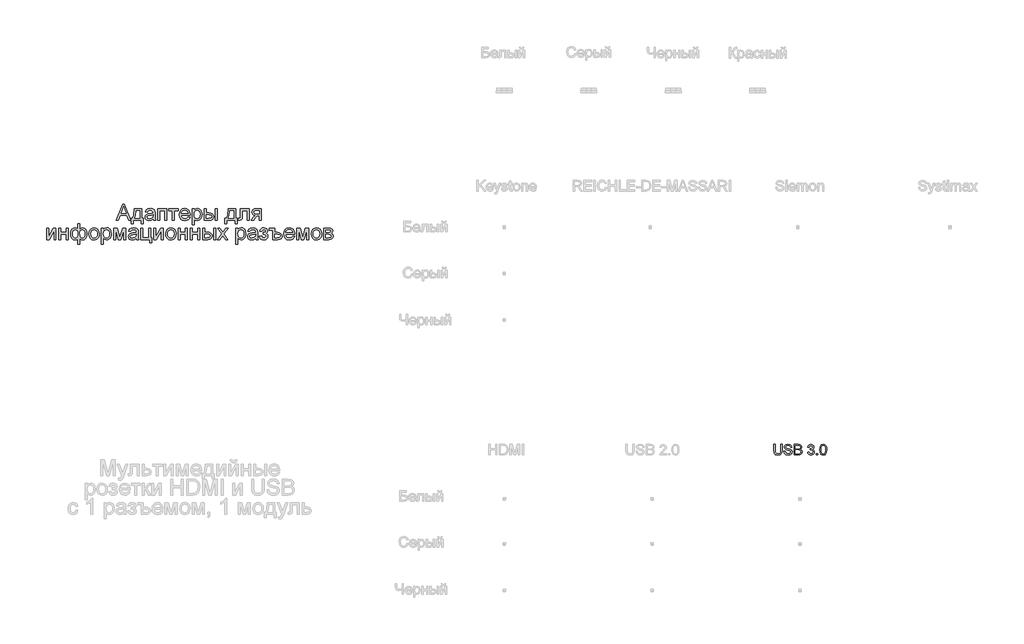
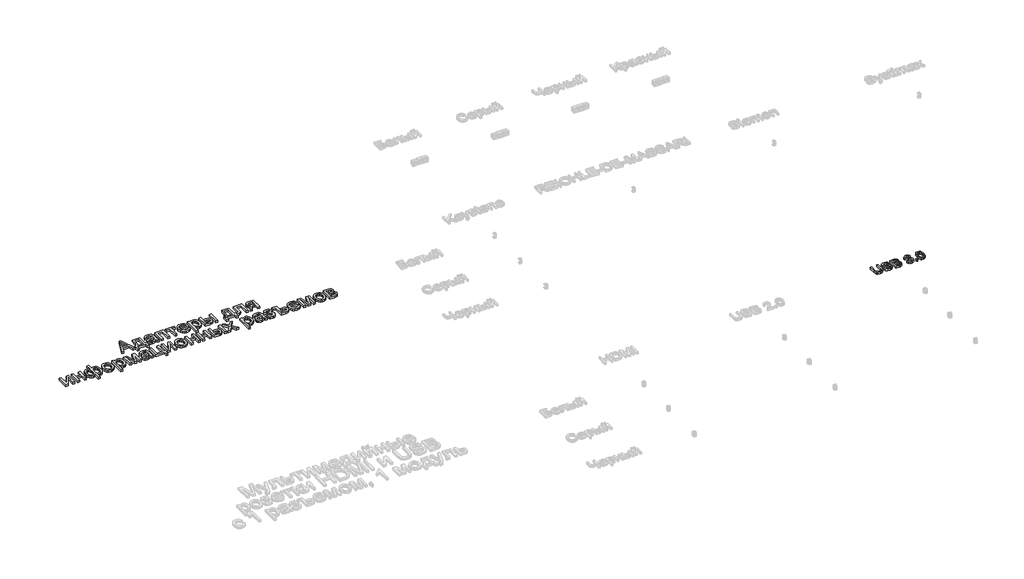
# One storey, part 11 of 15: 2 proxies.
"""IFC4 building model written with IfcOpenShell, lengths in millimetres."""

from ifc_helpers import new_model, si_unit, origin, origin_with_axes, place, context, project, spatial, polyline, outline, extrude, element, save

model = new_model("IFC4")

# Units and contexts
model_context = context("Model", 3, world=origin())
ifc_project = project(units=[si_unit("LENGTHUNIT", "METRE", prefix="MILLI")], contexts=[model_context])

# Site, building, storey
site = spatial("IfcSite", under=ifc_project)
building = spatial("IfcBuilding", under=site)
storey = spatial("IfcBuildingStorey", under=building, Name="Этаж 01", Elevation=0.0)

# Proxies
placement = place(None, origin())
element("IfcBuildingElementProxy", 1, Name="150 мм Arial", ObjectType="150 мм Arial", at=placement, inside=storey, context=model_context, shape_type="SweptSolid", body=[
    extrude(outline(polyline([(-2165.8082834, 1813.0882289), (-2105.6595772, 1963.7726941), (-2089.6199222, 1963.7726941), (-2029.471216, 1813.0882289), (-2049.373632, 1813.0882289), (-2066.6272975, 1860.1771243), (-2128.6889901, 1860.1771243), (-2145.9058675, 1813.0882289), (-2165.8082834, 1813.0882289)]), holes=[polyline([(-2121.7728086, 1879.0126824), (-2073.5066908, 1879.0126824), (-2087.0815365, 1916.0583994), (-2097.6397497, 1944.937136), (-2107.0207406, 1919.2957609), (-2121.7728086, 1879.0126824)])]), origin_with_axes(), (0.0, 0.0, 1.0), 20.0),
    extrude(outline(polyline([(-1995.2214023, 1923.7471331), (-1924.5880592, 1923.7471331), (-1924.5880592, 1831.9237871), (-1910.4613906, 1831.9237871), (-1910.4613906, 1782.4804469), (-1929.2969487, 1782.4804469), (-1929.2969487, 1813.0882289), (-2006.9936261, 1813.0882289), (-2006.9936261, 1782.4804469), (-2025.8291843, 1782.4804469), (-2025.8291843, 1831.9237871), (-2014.0569604, 1831.9237871), (-2005.4991055, 1847.3886264), (-1999.5072275, 1867.8474639), (-1995.2214023, 1923.7471331)]), holes=[polyline([(-1978.7402889, 1904.9115749), (-1983.1548728, 1861.9981402), (-1992.8669575, 1831.9237871), (-1943.4236173, 1831.9237871), (-1943.4236173, 1904.9115749), (-1978.7402889, 1904.9115749)])]), origin_with_axes(), (0.0, 0.0, 1.0), 20.0),
    extrude(outline(polyline([(-1818.6380446, 1827.2148975), (-1836.9033856, 1814.4493923), (-1857.0817131, 1810.7337841), (-1872.8224639, 1812.9686673), (-1884.4337394, 1819.6733166), (-1891.5936427, 1829.8544508), (-1893.9802772, 1842.5187885), (-1890.3750336, 1857.4180093), (-1880.9020723, 1868.23374), (-1867.7135027, 1874.4141575), (-1851.4163303, 1877.2468489), (-1818.7484092, 1883.721572), (-1818.6380446, 1887.9154267), (-1819.9348286, 1896.3215303), (-1823.8251807, 1901.8213661), (-1832.5255899, 1905.9048563), (-1844.6473016, 1907.2660197), (-1863.703589, 1903.642382), (-1872.7902743, 1890.7849063), (-1891.6258324, 1893.1393511), (-1883.4772462, 1911.5334508), (-1867.0697092, 1922.3123933), (-1842.2192805, 1926.1015778), (-1819.3922027, 1922.7538517), (-1806.4979387, 1914.3477481), (-1800.7221914, 1901.5638487), (-1799.8024864, 1885.0827354), (-1799.8024864, 1861.6486523), (-1798.8459932, 1828.9255488), (-1795.0935969, 1813.0882289), (-1813.929155, 1813.0882289), (-1818.6380446, 1827.2148975)]), holes=[polyline([(-1818.6380446, 1864.8860138), (-1849.0250974, 1859.1102665), (-1865.2302993, 1856.0568459), (-1872.5695451, 1851.090439), (-1875.144719, 1843.8431637), (-1869.5345186, 1833.6528324), (-1853.0717993, 1829.5693423), (-1834.015512, 1834.0758967), (-1821.7282533, 1844.9835979), (-1818.7484092, 1859.5517249), (-1818.6380446, 1864.8860138)])]), origin_with_axes(), (0.0, 0.0, 1.0), 20.0),
    extrude(outline(polyline([(-1773.903594, 1923.7471331), (-1689.1435823, 1923.7471331), (-1689.1435823, 1813.0882289), (-1707.9791404, 1813.0882289), (-1707.9791404, 1904.9115749), (-1755.0680358, 1904.9115749), (-1755.0680358, 1813.0882289), (-1773.903594, 1813.0882289), (-1773.903594, 1923.7471331)])), origin_with_axes(), (0.0, 0.0, 1.0), 20.0),
    extrude(outline(polyline([(-1670.3080241, 1923.7471331), (-1580.8391229, 1923.7471331), (-1580.8391229, 1904.9115749), (-1616.1557944, 1904.9115749), (-1616.1557944, 1813.0882289), (-1634.9913526, 1813.0882289), (-1634.9913526, 1904.9115749), (-1670.3080241, 1904.9115749), (-1670.3080241, 1923.7471331)])), origin_with_axes(), (0.0, 0.0, 1.0), 20.0),
    extrude(outline(polyline([(-1486.8820613, 1846.0504557), (-1468.4143852, 1843.6960109), (-1475.0684508, 1829.7808744), (-1485.6864448, 1819.379011), (-1500.0292441, 1812.8950909), (-1517.8577253, 1810.7337841), (-1539.9582362, 1814.4631879), (-1556.9635814, 1825.651399), (-1567.8069032, 1843.5718507), (-1571.4213438, 1867.497976), (-1567.770115, 1892.2288431), (-1556.8164286, 1910.7241104), (-1540.0410096, 1922.257211), (-1518.9245831, 1926.1015778), (-1498.4657456, 1922.266408), (-1482.1179895, 1910.7608986), (-1471.3988279, 1892.3024195), (-1467.825774, 1867.6083406), (-1467.9361386, 1862.5315691), (-1552.5857857, 1862.5315691), (-1549.3254315, 1848.4324916), (-1541.7516609, 1838.0674164), (-1530.8209671, 1831.6938608), (-1517.4898433, 1829.5693423), (-1499.0221672, 1833.5056796), (-1486.8820613, 1846.0504557)]), holes=[polyline([(-1552.5857857, 1881.3671272), (-1486.6613321, 1881.3671272), (-1489.2089149, 1891.3183352), (-1494.202913, 1898.4368518), (-1505.1841906, 1905.0587277), (-1518.9981595, 1907.2660197), (-1531.6946869, 1905.5047846), (-1542.1931193, 1900.2210795), (-1549.4909784, 1891.9851213), (-1552.5857857, 1881.3671272)])]), origin_with_axes(), (0.0, 0.0, 1.0), 20.0),
    extrude(outline(polyline([(-1448.9902158, 1770.7082231), (-1448.9902158, 1923.7471331), (-1430.1546577, 1923.7471331), (-1430.1546577, 1905.2794569), (-1417.131635, 1920.8960476), (-1399.5468757, 1926.1015778), (-1386.8089616, 1924.2805619), (-1375.6713342, 1918.8175143), (-1366.603043, 1910.0435287), (-1360.0731376, 1898.289699), (-1354.8124251, 1869.2638096), (-1356.2977486, 1853.1551767), (-1360.7537193, 1838.7479981), (-1368.0377828, 1826.7734391), (-1378.0073849, 1817.9626653), (-1389.6186603, 1812.5410044), (-1401.827744, 1810.7337841), (-1418.2168869, 1815.5714324), (-1430.1546577, 1827.8035087), (-1430.1546577, 1770.7082231), (-1448.9902158, 1770.7082231)]), holes=[polyline([(-1430.1546577, 1867.5347642), (-1428.1175111, 1850.6489806), (-1422.0060715, 1838.8399686), (-1412.9883641, 1831.8869989), (-1402.2324142, 1829.5693423), (-1391.3017205, 1831.9697723), (-1382.0540868, 1839.1710624), (-1375.7495091, 1851.4123358), (-1373.6479832, 1868.9327158), (-1375.6989253, 1885.7265289), (-1381.8517517, 1897.7010878), (-1390.8556635, 1904.8747867), (-1401.459862, 1907.2660197), (-1412.1054473, 1904.7230354), (-1421.4542485, 1897.0940825), (-1427.9795554, 1884.6182843), (-1430.1546577, 1867.5347642)])]), origin_with_axes(), (0.0, 0.0, 1.0), 20.0),
    extrude(outline(polyline([(-1230.0268523, 1923.7471331), (-1211.1912941, 1923.7471331), (-1211.1912941, 1813.0882289), (-1230.0268523, 1813.0882289), (-1230.0268523, 1923.7471331)])), origin_with_axes(), (0.0, 0.0, 1.0), 20.0),
    extrude(outline(polyline([(-1333.6224221, 1923.7471331), (-1314.786864, 1923.7471331), (-1314.786864, 1883.721572), (-1291.4999337, 1883.721572), (-1271.37219, 1881.3625287), (-1256.4591736, 1874.2853988), (-1247.2299341, 1863.0603994), (-1244.1535209, 1848.2577476), (-1246.7332934, 1834.779471), (-1254.4726109, 1823.4073189), (-1267.8773111, 1815.6680014), (-1287.4532317, 1813.0882289), (-1333.6224221, 1813.0882289), (-1333.6224221, 1923.7471331)]), holes=[polyline([(-1314.786864, 1831.9237871), (-1295.436271, 1831.9237871), (-1270.4570836, 1835.8785185), (-1264.8560802, 1840.9414945), (-1262.9890791, 1848.2209594), (-1268.5257031, 1859.8092423), (-1277.4054547, 1863.6168209), (-1292.9714617, 1864.8860138), (-1314.786864, 1864.8860138), (-1314.786864, 1831.9237871)])]), origin_with_axes(), (0.0, 0.0, 1.0), 20.0),
    extrude(outline(polyline([(-1107.5957243, 1923.7471331), (-1036.9623812, 1923.7471331), (-1036.9623812, 1831.9237871), (-1022.8357126, 1831.9237871), (-1022.8357126, 1782.4804469), (-1041.6712708, 1782.4804469), (-1041.6712708, 1813.0882289), (-1119.3679481, 1813.0882289), (-1119.3679481, 1782.4804469), (-1138.2035063, 1782.4804469), (-1138.2035063, 1831.9237871), (-1126.4312825, 1831.9237871), (-1117.8734275, 1847.3886264), (-1111.8815495, 1867.8474639), (-1107.5957243, 1923.7471331)]), holes=[polyline([(-1091.1146109, 1904.9115749), (-1095.5291949, 1861.9981402), (-1105.2412795, 1831.9237871), (-1055.7979394, 1831.9237871), (-1055.7979394, 1904.9115749), (-1091.1146109, 1904.9115749)])]), origin_with_axes(), (0.0, 0.0, 1.0), 20.0),
    extrude(outline(polyline([(-992.2279306, 1923.7471331), (-907.4679189, 1923.7471331), (-907.4679189, 1813.1985935), (-926.3034771, 1813.1985935), (-926.3034771, 1904.9115749), (-973.3923725, 1904.9115749), (-973.3923725, 1852.1205086), (-974.6615653, 1827.7667205), (-981.6329292, 1817.4844187), (-998.1140425, 1813.0882289), (-1013.4179335, 1814.0447221), (-1013.4179335, 1831.9237871), (-1004.9934358, 1831.9237871), (-996.4769677, 1833.0826153), (-993.0740592, 1836.7614353), (-992.2279306, 1853.1873664), (-992.2279306, 1923.7471331)])), origin_with_axes(), (0.0, 0.0, 1.0), 20.0),
    extrude(outline(polyline([(-794.45457, 1923.7471331), (-794.45457, 1813.0882289), (-813.2901282, 1813.0882289), (-813.2901282, 1855.4682347), (-823.5540358, 1855.4682347), (-837.5335516, 1853.0770018), (-850.6669389, 1837.0005586), (-865.6765243, 1813.0882289), (-887.4551384, 1813.0882289), (-868.5460038, 1843.3281289), (-860.1950825, 1854.1806478), (-852.5063488, 1858.9999019), (-865.3822187, 1862.9454363), (-874.4321158, 1870.441032), (-879.7847988, 1880.410634), (-881.5690265, 1891.7781877), (-879.1318082, 1904.6724516), (-871.8201536, 1914.881177), (-859.8915799, 1921.530644), (-843.6036046, 1923.7471331), (-794.45457, 1923.7471331)]), holes=[polyline([(-813.2901282, 1904.9115749), (-838.1221628, 1904.9115749), (-850.9474489, 1903.8217245), (-858.2269139, 1900.5521733), (-862.7334683, 1890.3434479), (-861.0734008, 1883.1651505), (-856.0931983, 1878.1849479), (-832.5671447, 1874.3037929), (-813.2901282, 1874.3037929), (-813.2901282, 1904.9115749)])]), origin_with_axes(), (0.0, 0.0, 1.0), 20.0),
    extrude(outline(polyline([(-2827.5176281, 1740.7849063), (-2808.68207, 1740.7849063), (-2808.68207, 1656.3927766), (-2762.402515, 1740.7849063), (-2738.0487269, 1740.7849063), (-2738.0487269, 1630.1260021), (-2756.8842851, 1630.1260021), (-2756.8842851, 1714.003097), (-2802.8695345, 1630.1260021), (-2827.5176281, 1630.1260021), (-2827.5176281, 1740.7849063)])), origin_with_axes(), (0.0, 0.0, 1.0), 20.0),
    extrude(outline(polyline([(-2709.7953897, 1740.7849063), (-2690.9598315, 1740.7849063), (-2690.9598315, 1698.4049004), (-2641.5164914, 1698.4049004), (-2641.5164914, 1740.7849063), (-2622.6809332, 1740.7849063), (-2622.6809332, 1630.1260021), (-2641.5164914, 1630.1260021), (-2641.5164914, 1679.5693423), (-2690.9598315, 1679.5693423), (-2690.9598315, 1630.1260021), (-2709.7953897, 1630.1260021), (-2709.7953897, 1740.7849063)])), origin_with_axes(), (0.0, 0.0, 1.0), 20.0),
    extrude(outline(polyline([(-2530.8575872, 1780.8104674), (-2512.0220291, 1780.8104674), (-2512.0220291, 1730.1531166), (-2500.0474701, 1739.9203836), (-2486.012772, 1743.1393511), (-2469.5270601, 1739.0466639), (-2456.8581239, 1726.7686023), (-2448.7877126, 1708.282532), (-2446.0975756, 1685.5658188), (-2448.9946463, 1662.1547283), (-2457.6858584, 1643.7192419), (-2470.6812899, 1631.7584785), (-2486.4910186, 1627.7715574), (-2498.0057251, 1629.6109673), (-2512.0220291, 1639.6541458), (-2512.0220291, 1587.7459963), (-2530.8575872, 1587.7459963), (-2530.8575872, 1639.6541458), (-2542.8873285, 1630.7514015), (-2557.1243617, 1627.7715574), (-2572.9064993, 1631.579136), (-2586.5549213, 1643.001872), (-2595.9910945, 1661.5155334), (-2599.1364855, 1686.5958884), (-2596.2899986, 1708.6780052), (-2587.7505378, 1726.8789669), (-2574.4010199, 1739.074255), (-2557.1243617, 1743.1393511), (-2542.5378406, 1739.9203836), (-2530.8575872, 1730.1531166), (-2530.8575872, 1780.8104674)]), holes=[polyline([(-2512.1323937, 1685.1243604), (-2510.5642967, 1666.0542775), (-2505.8600057, 1654.4613961), (-2498.7920728, 1648.5706857), (-2490.1330504, 1646.6071155), (-2480.4531554, 1649.0213411), (-2472.3091677, 1656.2640179), (-2466.7771422, 1668.5926633), (-2464.9331337, 1686.2647946), (-2466.6345879, 1703.0218195), (-2471.7389506, 1714.8860138), (-2479.5104578, 1721.9493481), (-2489.2133454, 1724.3037929), (-2499.2059401, 1721.8527791), (-2506.3750405, 1714.4997377), (-2510.6930554, 1702.2538658), (-2512.1323937, 1685.1243604)]), polyline([(-2580.3009274, 1687.0005586), (-2578.4155322, 1668.5236854), (-2572.7593465, 1656.0616828), (-2564.3072577, 1648.9707573), (-2554.0341529, 1646.6071155), (-2543.811632, 1648.9569618), (-2536.5413641, 1656.0065005), (-2532.195758, 1667.7557317), (-2530.7472226, 1684.2046554), (-2532.2693344, 1701.7480281), (-2536.8356697, 1714.2790085), (-2544.4738196, 1721.7975968), (-2555.2113753, 1724.3037929), (-2565.291342, 1721.8573776), (-2573.3111695, 1714.5181318), (-2578.5534879, 1702.745908), (-2580.3009274, 1687.0005586)])]), origin_with_axes(), (0.0, 0.0, 1.0), 20.0),
    extrude(outline(polyline([(-2427.2620174, 1685.4554542), (-2423.1877243, 1712.1360959), (-2410.964845, 1730.8888806), (-2395.8632891, 1740.0767334), (-2377.781889, 1743.1393511), (-2357.9944362, 1739.4099473), (-2342.189306, 1728.2217361), (-2331.8288293, 1710.4576343), (-2328.3753371, 1687.0005586), (-2329.9020474, 1667.9718624), (-2334.4821782, 1653.4865088), (-2341.9823724, 1642.6385885), (-2352.2692727, 1634.522192), (-2364.4875534, 1629.459216), (-2377.781889, 1627.7715574), (-2397.8084652, 1631.4871655), (-2413.5952013, 1642.63399), (-2423.8453134, 1660.7705723), (-2427.2620174, 1685.4554542)]), holes=[polyline([(-2408.4264592, 1685.4922424), (-2406.2467584, 1668.4455105), (-2399.707656, 1656.3008061), (-2389.8668126, 1649.0305382), (-2377.781889, 1646.6071155), (-2365.7521478, 1649.0443337), (-2355.9296985, 1656.3559884), (-2349.3905961, 1668.6616411), (-2347.2108952, 1686.0808536), (-2349.4043916, 1702.6309449), (-2355.9848808, 1714.6101023), (-2365.8211257, 1721.8803703), (-2377.781889, 1724.3037929), (-2389.8668126, 1721.8895673), (-2399.707656, 1714.6468905), (-2406.2467584, 1702.5297773), (-2408.4264592, 1685.4922424)])]), origin_with_axes(), (0.0, 0.0, 1.0), 20.0),
    extrude(outline(polyline([(-2307.1853342, 1587.7459963), (-2307.1853342, 1740.7849063), (-2288.349776, 1740.7849063), (-2288.349776, 1722.3172301), (-2275.3267534, 1737.9338208), (-2257.741994, 1743.1393511), (-2245.0040799, 1741.3183352), (-2233.8664525, 1735.8552875), (-2224.7981614, 1727.081302), (-2218.2682559, 1715.3274722), (-2213.0075434, 1686.3015828), (-2214.492867, 1670.1929499), (-2218.9488376, 1655.7857713), (-2226.2329011, 1643.8112124), (-2236.2025032, 1635.0004386), (-2247.8137787, 1629.5787777), (-2260.0228624, 1627.7715574), (-2276.4120053, 1632.6092056), (-2288.349776, 1644.8412819), (-2288.349776, 1587.7459963), (-2307.1853342, 1587.7459963)]), holes=[polyline([(-2288.349776, 1684.5725374), (-2286.3126295, 1667.6867538), (-2280.2011898, 1655.8777418), (-2271.1834824, 1648.9247721), (-2260.4275326, 1646.6071155), (-2249.4968388, 1649.0075455), (-2240.2492051, 1656.2088356), (-2233.9446275, 1668.450109), (-2231.8431016, 1685.970489), (-2233.8940437, 1702.7643021), (-2240.0468701, 1714.738861), (-2249.0507819, 1721.9125599), (-2259.6549804, 1724.3037929), (-2270.3005656, 1721.7608086), (-2279.6493668, 1714.1318557), (-2286.1746737, 1701.6560576), (-2288.349776, 1684.5725374)])]), origin_with_axes(), (0.0, 0.0, 1.0), 20.0),
    extrude(outline(polyline([(-2191.8175405, 1740.7849063), (-2159.4071367, 1740.7849063), (-2134.4279492, 1652.1989218), (-2107.4989872, 1740.7849063), (-2076.4497468, 1740.7849063), (-2076.4497468, 1630.1260021), (-2095.285305, 1630.1260021), (-2095.285305, 1719.2270214), (-2122.3614198, 1630.1260021), (-2147.0830899, 1630.1260021), (-2172.9819823, 1723.4944525), (-2172.9819823, 1630.1260021), (-2191.8175405, 1630.1260021), (-2191.8175405, 1740.7849063)])), origin_with_axes(), (0.0, 0.0, 1.0), 20.0),
    extrude(outline(polyline([(-1977.5630665, 1644.2526708), (-1995.8284076, 1631.4871655), (-2016.006735, 1627.7715574), (-2031.7474859, 1630.0064405), (-2043.3587613, 1636.7110898), (-2050.5186647, 1646.8922241), (-2052.9052991, 1659.5565617), (-2049.3000556, 1674.4557826), (-2039.8270942, 1685.2715132), (-2026.6385247, 1691.4519307), (-2010.3413523, 1694.2846221), (-1977.6734311, 1700.7593452), (-1977.5630665, 1704.9532), (-1978.8598505, 1713.3593035), (-1982.7502026, 1718.8591394), (-1991.4506118, 1722.9426295), (-2003.5723236, 1724.3037929), (-2022.6286109, 1720.6801552), (-2031.7152962, 1707.8226795), (-2050.5508543, 1710.1771243), (-2042.4022681, 1728.571224), (-2025.9947312, 1739.3501665), (-2001.1443024, 1743.1393511), (-1978.3172246, 1739.7916249), (-1965.4229607, 1731.3855213), (-1959.6472133, 1718.601622), (-1958.7275083, 1702.1205086), (-1958.7275083, 1678.6864255), (-1957.7710152, 1645.963322), (-1954.0186188, 1630.1260021), (-1972.854177, 1630.1260021), (-1977.5630665, 1644.2526708)]), holes=[polyline([(-1977.5630665, 1681.9237871), (-2007.9501193, 1676.1480397), (-2024.1553212, 1673.0946192), (-2031.494567, 1668.1282122), (-2034.069741, 1660.8809369), (-2028.4595405, 1650.6906057), (-2011.9968212, 1646.6071155), (-1992.9405339, 1651.11367), (-1980.6532753, 1662.0213711), (-1977.6734311, 1676.5894981), (-1977.5630665, 1681.9237871)])]), origin_with_axes(), (0.0, 0.0, 1.0), 20.0),
    extrude(outline(polyline([(-1932.8286159, 1740.7849063), (-1913.9930577, 1740.7849063), (-1913.9930577, 1648.9615603), (-1859.840828, 1648.9615603), (-1859.840828, 1740.7849063), (-1841.0052699, 1740.7849063), (-1841.0052699, 1648.9615603), (-1829.233046, 1648.9615603), (-1829.233046, 1599.5182201), (-1848.0686042, 1599.5182201), (-1848.0686042, 1630.1260021), (-1932.8286159, 1630.1260021), (-1932.8286159, 1740.7849063)])), origin_with_axes(), (0.0, 0.0, 1.0), 20.0),
    extrude(outline(polyline([(-1812.7519327, 1740.7849063), (-1793.9163745, 1740.7849063), (-1793.9163745, 1656.3927766), (-1747.6368195, 1740.7849063), (-1723.2830314, 1740.7849063), (-1723.2830314, 1630.1260021), (-1742.1185896, 1630.1260021), (-1742.1185896, 1714.003097), (-1788.103839, 1630.1260021), (-1812.7519327, 1630.1260021), (-1812.7519327, 1740.7849063)])), origin_with_axes(), (0.0, 0.0, 1.0), 20.0),
    extrude(outline(polyline([(-1699.7385837, 1685.4554542), (-1695.6642906, 1712.1360959), (-1683.4414113, 1730.8888806), (-1668.3398554, 1740.0767334), (-1650.2584554, 1743.1393511), (-1630.4710026, 1739.4099473), (-1614.6658724, 1728.2217361), (-1604.3053957, 1710.4576343), (-1600.8519034, 1687.0005586), (-1602.3786137, 1667.9718624), (-1606.9587446, 1653.4865088), (-1614.4589387, 1642.6385885), (-1624.745839, 1634.522192), (-1636.9641198, 1629.459216), (-1650.2584554, 1627.7715574), (-1670.2850315, 1631.4871655), (-1686.0717676, 1642.63399), (-1696.3218797, 1660.7705723), (-1699.7385837, 1685.4554542)]), holes=[polyline([(-1680.9030256, 1685.4922424), (-1678.7233248, 1668.4455105), (-1672.1842223, 1656.3008061), (-1662.3433789, 1649.0305382), (-1650.2584554, 1646.6071155), (-1638.2287141, 1649.0443337), (-1628.4062649, 1656.3559884), (-1621.8671624, 1668.6616411), (-1619.6874616, 1686.0808536), (-1621.880958, 1702.6309449), (-1628.4614472, 1714.6101023), (-1638.297692, 1721.8803703), (-1650.2584554, 1724.3037929), (-1662.3433789, 1721.8895673), (-1672.1842223, 1714.6468905), (-1678.7233248, 1702.5297773), (-1680.9030256, 1685.4922424)])]), origin_with_axes(), (0.0, 0.0, 1.0), 20.0),
    extrude(outline(polyline([(-1579.6619005, 1740.7849063), (-1560.8263424, 1740.7849063), (-1560.8263424, 1698.4049004), (-1511.3830022, 1698.4049004), (-1511.3830022, 1740.7849063), (-1492.5474441, 1740.7849063), (-1492.5474441, 1630.1260021), (-1511.3830022, 1630.1260021), (-1511.3830022, 1679.5693423), (-1560.8263424, 1679.5693423), (-1560.8263424, 1630.1260021), (-1579.6619005, 1630.1260021), (-1579.6619005, 1740.7849063)])), origin_with_axes(), (0.0, 0.0, 1.0), 20.0),
    extrude(outline(polyline([(-1464.2941068, 1740.7849063), (-1445.4585487, 1740.7849063), (-1445.4585487, 1698.4049004), (-1396.0152085, 1698.4049004), (-1396.0152085, 1740.7849063), (-1377.1796504, 1740.7849063), (-1377.1796504, 1630.1260021), (-1396.0152085, 1630.1260021), (-1396.0152085, 1679.5693423), (-1445.4585487, 1679.5693423), (-1445.4585487, 1630.1260021), (-1464.2941068, 1630.1260021), (-1464.2941068, 1740.7849063)])), origin_with_axes(), (0.0, 0.0, 1.0), 20.0),
    extrude(outline(polyline([(-1245.3307433, 1740.7849063), (-1226.4951851, 1740.7849063), (-1226.4951851, 1630.1260021), (-1245.3307433, 1630.1260021), (-1245.3307433, 1740.7849063)])), origin_with_axes(), (0.0, 0.0, 1.0), 20.0),
    extrude(outline(polyline([(-1348.9263131, 1740.7849063), (-1330.090755, 1740.7849063), (-1330.090755, 1700.7593452), (-1306.8038247, 1700.7593452), (-1286.676081, 1698.4003019), (-1271.7630646, 1691.323172), (-1262.5338251, 1680.0981727), (-1259.4574119, 1665.2955209), (-1262.0371844, 1651.8172443), (-1269.7765019, 1640.4450921), (-1283.1812021, 1632.7057746), (-1302.7571227, 1630.1260021), (-1348.9263131, 1630.1260021), (-1348.9263131, 1740.7849063)]), holes=[polyline([(-1330.090755, 1648.9615603), (-1310.740162, 1648.9615603), (-1285.7609746, 1652.9162917), (-1280.1599712, 1657.9792677), (-1278.2929701, 1665.2587327), (-1283.8295941, 1676.8470155), (-1292.7093457, 1680.6545942), (-1308.2753527, 1681.9237871), (-1330.090755, 1681.9237871), (-1330.090755, 1648.9615603)])]), origin_with_axes(), (0.0, 0.0, 1.0), 20.0),
    extrude(outline(polyline([(-1210.0140718, 1630.1260021), (-1169.7677815, 1685.7497598), (-1207.659627, 1740.7849063), (-1184.9980961, 1740.7849063), (-1166.7143609, 1714.2974026), (-1158.1794986, 1701.7894148), (-1150.7850705, 1712.0165343), (-1129.9629496, 1740.7849063), (-1107.3014187, 1740.7849063), (-1147.1062506, 1685.7497598), (-1108.7729467, 1630.1260021), (-1131.4344776, 1630.1260021), (-1154.5006787, 1663.5664755), (-1158.7313216, 1669.6733166), (-1187.3525409, 1630.1260021), (-1210.0140718, 1630.1260021)])), origin_with_axes(), (0.0, 0.0, 1.0), 20.0),
    extrude(outline(polyline([(-1033.4307141, 1587.7459963), (-1033.4307141, 1740.7849063), (-1014.5951559, 1740.7849063), (-1014.5951559, 1722.3172301), (-1001.5721333, 1737.9338208), (-983.9873739, 1743.1393511), (-971.2494598, 1741.3183352), (-960.1118324, 1735.8552875), (-951.0435413, 1727.081302), (-944.5136358, 1715.3274722), (-939.2529233, 1686.3015828), (-940.7382469, 1670.1929499), (-945.1942175, 1655.7857713), (-952.478281, 1643.8112124), (-962.4478831, 1635.0004386), (-974.0591586, 1629.5787777), (-986.2682423, 1627.7715574), (-1002.6573852, 1632.6092056), (-1014.5951559, 1644.8412819), (-1014.5951559, 1587.7459963), (-1033.4307141, 1587.7459963)]), holes=[polyline([(-1014.5951559, 1684.5725374), (-1012.5580094, 1667.6867538), (-1006.4465697, 1655.8777418), (-997.4288623, 1648.9247721), (-986.6729125, 1646.6071155), (-975.7422187, 1649.0075455), (-966.494585, 1656.2088356), (-960.1900074, 1668.450109), (-958.0884815, 1685.970489), (-960.1394236, 1702.7643021), (-966.29225, 1714.738861), (-975.2961618, 1721.9125599), (-985.9003603, 1724.3037929), (-996.5459455, 1721.7608086), (-1005.8947467, 1714.1318557), (-1012.4200536, 1701.6560576), (-1014.5951559, 1684.5725374)])]), origin_with_axes(), (0.0, 0.0, 1.0), 20.0),
    extrude(outline(polyline([(-847.4295773, 1644.2526708), (-865.6949184, 1631.4871655), (-885.8732458, 1627.7715574), (-901.6139967, 1630.0064405), (-913.2252721, 1636.7110898), (-920.3851755, 1646.8922241), (-922.7718099, 1659.5565617), (-919.1665664, 1674.4557826), (-909.693605, 1685.2715132), (-896.5050355, 1691.4519307), (-880.2078631, 1694.2846221), (-847.5399419, 1700.7593452), (-847.4295773, 1704.9532), (-848.7263613, 1713.3593035), (-852.6167134, 1718.8591394), (-861.3171226, 1722.9426295), (-873.4388344, 1724.3037929), (-892.4951217, 1720.6801552), (-901.581807, 1707.8226795), (-920.4173652, 1710.1771243), (-912.268779, 1728.571224), (-895.861242, 1739.3501665), (-871.0108132, 1743.1393511), (-848.1837354, 1739.7916249), (-835.2894715, 1731.3855213), (-829.5137241, 1718.601622), (-828.5940192, 1702.1205086), (-828.5940192, 1678.6864255), (-827.637526, 1645.963322), (-823.8851296, 1630.1260021), (-842.7206878, 1630.1260021), (-847.4295773, 1644.2526708)]), holes=[polyline([(-847.4295773, 1681.9237871), (-877.8166301, 1676.1480397), (-894.021832, 1673.0946192), (-901.3610778, 1668.1282122), (-903.9362518, 1660.8809369), (-898.3260513, 1650.6906057), (-881.8633321, 1646.6071155), (-862.8070447, 1651.11367), (-850.5197861, 1662.0213711), (-847.5399419, 1676.5894981), (-847.4295773, 1681.9237871)])]), origin_with_axes(), (0.0, 0.0, 1.0), 20.0),
    extrude(outline(polyline([(-776.7962342, 1679.5693423), (-776.7962342, 1698.4049004), (-761.9338016, 1699.1406644), (-754.4290089, 1703.0586077), (-750.8973418, 1711.2439821), (-755.6246254, 1720.7537316), (-767.8199136, 1724.3037929), (-780.4198719, 1720.7721257), (-788.5684581, 1710.1771243), (-809.758461, 1712.5315691), (-804.1390635, 1725.9224737), (-795.5950042, 1735.4874056), (-784.126283, 1741.2263647), (-769.7328999, 1743.1393511), (-753.9875505, 1740.8078989), (-742.0681739, 1733.8135425), (-734.5633812, 1723.5818245), (-732.0617836, 1711.5382877), (-735.6210419, 1699.8396402), (-746.2988168, 1690.7897431), (-733.8460113, 1679.0543075), (-729.7073389, 1662.1685239), (-732.3330966, 1648.3039712), (-740.2103698, 1637.3180951), (-752.8057296, 1630.1581918), (-769.5857471, 1627.7715574), (-785.9978826, 1629.9788493), (-798.5564543, 1636.6007253), (-807.261462, 1647.6371851), (-812.1129058, 1663.0882289), (-790.9229029, 1665.4426737), (-782.4248288, 1651.5367343), (-767.7831254, 1646.6071155), (-754.0243387, 1651.3343992), (-748.542897, 1663.4193227), (-751.9458055, 1673.3153484), (-759.1930808, 1678.6128491), (-773.1174143, 1679.6797069), (-776.7962342, 1679.5693423)])), origin_with_axes(), (0.0, 0.0, 1.0), 20.0),
    extrude(outline(polyline([(-715.5806702, 1740.7849063), (-666.1373301, 1740.7849063), (-666.1373301, 1698.4049004), (-642.7768234, 1698.4049004), (-621.3476972, 1695.9124999), (-606.7243879, 1688.4352984), (-598.3090872, 1677.3436562), (-595.503987, 1664.0079339), (-598.2355108, 1650.3917015), (-606.4300823, 1639.5621753), (-619.9589426, 1632.4850454), (-638.6933332, 1630.1260021), (-684.9728882, 1630.1260021), (-684.9728882, 1721.9493481), (-715.5806702, 1721.9493481), (-715.5806702, 1740.7849063)]), holes=[polyline([(-666.1373301, 1648.9615603), (-646.7499489, 1648.9615603), (-621.7155792, 1652.5851979), (-616.1835537, 1657.3078831), (-614.3395452, 1664.2286631), (-615.9168392, 1670.7217803), (-620.6487214, 1675.5594285), (-644.2851396, 1679.5693423), (-666.1373301, 1679.5693423), (-666.1373301, 1648.9615603)])]), origin_with_axes(), (0.0, 0.0, 1.0), 20.0),
    extrude(outline(polyline([(-496.8380359, 1663.0882289), (-478.3703597, 1660.7337841), (-485.0244253, 1646.8186477), (-495.6424194, 1636.4167843), (-509.9852187, 1629.9328641), (-527.8136999, 1627.7715574), (-549.9142108, 1631.5009611), (-566.919556, 1642.6891723), (-577.7628778, 1660.609624), (-581.3773184, 1684.5357492), (-577.7260896, 1709.2666163), (-566.7724032, 1727.7618837), (-549.9969842, 1739.2949842), (-528.8805577, 1743.1393511), (-508.4217202, 1739.3041813), (-492.0739641, 1727.7986719), (-481.3548024, 1709.3401927), (-477.7817486, 1684.6461138), (-477.8921132, 1679.5693423), (-562.5417602, 1679.5693423), (-559.2814061, 1665.4702648), (-551.7076355, 1655.1051896), (-540.7769417, 1648.731634), (-527.4458179, 1646.6071155), (-508.9781417, 1650.5434529), (-496.8380359, 1663.0882289)]), holes=[polyline([(-562.5417602, 1698.4049004), (-496.6173067, 1698.4049004), (-499.1648895, 1708.3561084), (-504.1588876, 1715.474625), (-515.1401652, 1722.0965009), (-528.9541341, 1724.3037929), (-541.6506614, 1722.5425578), (-552.1490939, 1717.2588527), (-559.446953, 1709.0228945), (-562.5417602, 1698.4049004)])]), origin_with_axes(), (0.0, 0.0, 1.0), 20.0),
    extrude(outline(polyline([(-458.9461904, 1740.7849063), (-426.5357866, 1740.7849063), (-401.5565992, 1652.1989218), (-374.6276371, 1740.7849063), (-343.5783967, 1740.7849063), (-343.5783967, 1630.1260021), (-362.4139549, 1630.1260021), (-362.4139549, 1719.2270214), (-389.4900697, 1630.1260021), (-414.2117398, 1630.1260021), (-440.1106323, 1723.4944525), (-440.1106323, 1630.1260021), (-458.9461904, 1630.1260021), (-458.9461904, 1740.7849063)])), origin_with_axes(), (0.0, 0.0, 1.0), 20.0),
    extrude(outline(polyline([(-320.033949, 1685.4554542), (-315.9596559, 1712.1360959), (-303.7367766, 1730.8888806), (-288.6352207, 1740.0767334), (-270.5538207, 1743.1393511), (-250.7663679, 1739.4099473), (-234.9612376, 1728.2217361), (-224.600761, 1710.4576343), (-221.1472687, 1687.0005586), (-222.673979, 1667.9718624), (-227.2541098, 1653.4865088), (-234.754304, 1642.6385885), (-245.0412043, 1634.522192), (-257.2594851, 1629.459216), (-270.5538207, 1627.7715574), (-290.5803968, 1631.4871655), (-306.3671329, 1642.63399), (-316.617245, 1660.7705723), (-320.033949, 1685.4554542)]), holes=[polyline([(-301.1983909, 1685.4922424), (-299.0186901, 1668.4455105), (-292.4795876, 1656.3008061), (-282.6387442, 1649.0305382), (-270.5538207, 1646.6071155), (-258.5240794, 1649.0443337), (-248.7016302, 1656.3559884), (-242.1625277, 1668.6616411), (-239.9828269, 1686.0808536), (-242.1763233, 1702.6309449), (-248.7568125, 1714.6101023), (-258.5930573, 1721.8803703), (-270.5538207, 1724.3037929), (-282.6387442, 1721.8895673), (-292.4795876, 1714.6468905), (-299.0186901, 1702.5297773), (-301.1983909, 1685.4922424)])]), origin_with_axes(), (0.0, 0.0, 1.0), 20.0),
    extrude(outline(polyline([(-199.9572658, 1740.7849063), (-158.4601767, 1740.7849063), (-135.7066753, 1738.2649146), (-122.9043819, 1729.0310765), (-117.5516989, 1712.9362392), (-120.7890604, 1699.8580343), (-130.5379333, 1690.5322257), (-117.8827927, 1680.3235004), (-112.8428093, 1662.5731941), (-116.0341856, 1648.2165992), (-123.6217518, 1638.1090414), (-135.6330989, 1632.121762), (-152.0958182, 1630.1260021), (-199.9572658, 1630.1260021), (-199.9572658, 1740.7849063)]), holes=[polyline([(-181.1217076, 1698.4049004), (-162.5068787, 1698.4049004), (-147.1478054, 1699.3613936), (-139.6798009, 1703.1873664), (-136.387257, 1710.1035479), (-137.8311939, 1715.7229454), (-142.1630044, 1719.337386), (-161.9182675, 1721.9493481), (-181.1217076, 1721.9493481), (-181.1217076, 1698.4049004)]), polyline([(-181.1217076, 1648.9615603), (-158.0187183, 1648.9615603), (-137.5276912, 1652.3644687), (-133.2878512, 1657.0043804), (-131.6783675, 1664.1182985), (-134.897335, 1673.1865897), (-143.2850444, 1678.4656963), (-159.8581283, 1679.5693423), (-181.1217076, 1679.5693423), (-181.1217076, 1648.9615603)])]), origin_with_axes(), (0.0, 0.0, 1.0), 20.0),
])
element("IfcBuildingElementProxy", 2, Name="100 мм Arial", ObjectType="100 мм Arial", at=placement, inside=storey, context=model_context, shape_type="SweptSolid", body=[
    extrude(outline(polyline([(4126.9012045, -308.2307819), (4139.4582433, -308.2307819), (4139.4582433, -366.1844589), (4136.0492034, -390.2071532), (4123.7619448, -404.6771783), (4113.4980371, -408.861836), (4100.4627518, -410.2567219), (4077.519178, -405.4006796), (4069.8794952, -399.4563197), (4064.790461, -391.3353246), (4060.976751, -366.1844589), (4060.976751, -308.2307819), (4073.5337897, -308.2307819), (4073.5337897, -365.7430005), (4076.0108618, -384.885127), (4084.5211986, -394.3642197), (4099.2855294, -397.6996831), (4112.057166, -396.0503455), (4120.5491087, -391.1023327), (4125.3131805, -381.4638244), (4126.9012045, -365.7430005), (4126.9012045, -308.2307819)])), origin_with_axes(), (0.0, 0.0, 1.0), 20.0),
    extrude(outline(polyline([(4156.7241716, -374.1552354), (4169.2812103, -374.1552354), (4173.3279123, -386.7245369), (4183.2116752, -394.670788), (4198.2703116, -397.6996831), (4211.391436, -395.406552), (4219.8649847, -389.1035072), (4222.6486251, -380.6790095), (4220.5639605, -372.843123), (4212.0290982, -367.1409521), (4193.745363, -362.3462234), (4174.0636763, -356.1535431), (4163.3828357, -346.8093405), (4159.8634313, -334.3258781), (4164.2167015, -320.1133703), (4176.9331558, -310.0824546), (4195.5479848, -306.6611521), (4215.4136125, -310.2418701), (4228.6573644, -320.7632952), (4233.636034, -336.4841191), (4221.0789953, -336.4841191), (4218.7736014, -328.9915892), (4213.96661, -323.5837238), (4196.0384941, -319.2181908), (4178.0613273, -323.5346729), (4172.42047, -333.9579961), (4176.418121, -342.6645366), (4196.9214109, -349.67882), (4219.1414834, -355.9818649), (4231.293852, -366.1599334), (4235.2056639, -380.3601784), (4230.7052408, -395.3820266), (4217.7557946, -406.34491), (4198.7608209, -410.2567219), (4176.3322819, -406.0383417), (4162.1442996, -393.3341501), (4156.7241716, -374.1552354)])), origin_with_axes(), (0.0, 0.0, 1.0), 20.0),
    extrude(outline(polyline([(4254.041222, -408.687092), (4254.041222, -308.2307819), (4292.3745259, -308.2307819), (4311.1487704, -311.1861006), (4322.2342812, -320.2727859), (4326.2441949, -333.1241302), (4322.8719433, -344.8595659), (4312.6816121, -353.7500474), (4325.0547098, -363.1187756), (4329.3834546, -378.7414976), (4326.4281359, -392.2427669), (4319.1072842, -401.8567497), (4308.181189, -406.9580467), (4292.0802203, -408.687092), (4254.041222, -408.687092)]), holes=[polyline([(4266.5982608, -349.0411579), (4289.5295718, -349.0411579), (4302.9204764, -347.9620374), (4310.9770921, -343.3144615), (4313.6871562, -335.1352185), (4311.1610331, -326.9437127), (4303.9260206, -322.0999331), (4287.7882637, -320.7878207), (4266.5982608, -320.7878207), (4266.5982608, -349.0411579)]), polyline([(4266.5982608, -396.1300533), (4292.3500005, -396.1300533), (4301.6696777, -395.639544), (4309.5546151, -392.9049545), (4314.7785394, -387.3254109), (4316.8264159, -378.864125), (4314.4229202, -369.1029894), (4306.6360846, -363.2781911), (4291.1237271, -361.5981967), (4266.5982608, -361.5981967), (4266.5982608, -396.1300533)])]), origin_with_axes(), (0.0, 0.0, 1.0), 20.0),
    extrude(outline(polyline([(4381.1812396, -382.0033847), (4393.7382783, -380.4337548), (4400.6667226, -393.6529812), (4413.6284315, -397.6996831), (4422.2368702, -396.3078629), (4428.8832716, -392.1324023), (4434.5486543, -378.3490902), (4428.9323225, -365.3628558), (4414.6585011, -360.2247706), (4405.8538587, -361.5981967), (4407.2518103, -349.0411579), (4409.2628985, -349.1883107), (4423.5121945, -345.5830671), (4428.2578722, -341.0090677), (4429.8397648, -334.4975564), (4425.2535026, -324.6751071), (4413.4322278, -320.7878207), (4401.4638002, -324.7118953), (4395.3079082, -336.4841191), (4382.7508694, -334.9144893), (4386.4480835, -323.6389061), (4393.0270398, -315.2205398), (4402.0278859, -309.9782214), (4412.9907694, -308.2307819), (4428.1352449, -311.6766099), (4438.7302463, -321.094389), (4442.3968036, -333.7617924), (4438.9141873, -345.3378125), (4428.6134915, -353.6519456), (4442.2987017, -362.2358588), (4447.1056931, -378.5698194), (4444.7021974, -390.8080271), (4437.4917103, -401.0351465), (4426.6085346, -407.9513281), (4413.1869731, -410.2567219), (4401.0468673, -408.2885532), (4391.1631044, -402.3840472), (4384.2898424, -393.3525442), (4381.1812396, -382.0033847)])), origin_with_axes(), (0.0, 0.0, 1.0), 20.0),
    extrude(outline(polyline([(4464.3716214, -408.687092), (4464.3716214, -396.1300533), (4476.9286602, -396.1300533), (4476.9286602, -408.687092), (4464.3716214, -408.687092)])), origin_with_axes(), (0.0, 0.0, 1.0), 20.0),
    extrude(outline(polyline([(4497.3338482, -359.2682774), (4501.0249308, -330.3650153), (4511.9878143, -313.6999609), (4530.2960749, -308.2307819), (4544.9623038, -311.4681435), (4555.0913214, -320.8000834), (4560.9774333, -335.662516), (4563.2583017, -359.2682774), (4559.6040072, -388.0489121), (4548.677912, -404.7507547), (4540.4465523, -408.8802301), (4530.2960749, -410.2567219), (4517.2485268, -407.8654889), (4507.3402384, -400.69179), (4499.8354457, -383.7017732), (4497.3338482, -359.2682774)]), holes=[polyline([(4509.8908869, -359.2437519), (4511.3624149, -378.9959494), (4515.7769989, -390.4278824), (4522.3498238, -395.8817329), (4530.2960749, -397.6996831), (4538.242326, -395.8756016), (4544.815151, -390.4033569), (4549.2297349, -378.9652925), (4550.7012629, -359.2437519), (4549.2787859, -339.9360785), (4545.0113547, -328.4152407), (4538.4507925, -322.6946757), (4530.1489221, -320.7878207), (4522.2885102, -322.4678151), (4515.9732026, -327.5077984), (4511.4114658, -339.7460062), (4509.8908869, -359.2437519)])]), origin_with_axes(), (0.0, 0.0, 1.0), 20.0),
])

save(model, "model.ifc")
